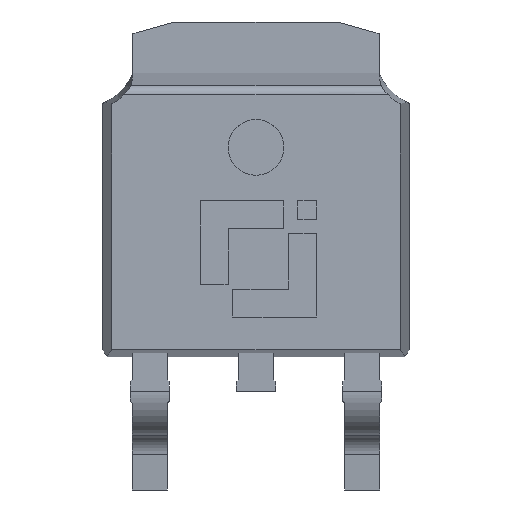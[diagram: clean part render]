
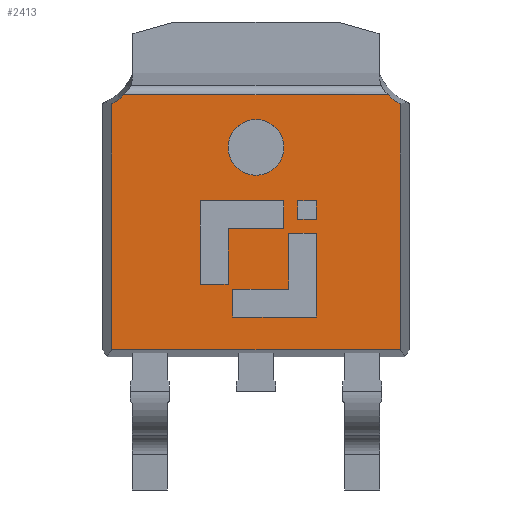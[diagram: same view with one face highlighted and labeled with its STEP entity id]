
A CAD part, top view. The second image highlights one B-rep face of the part: STEP entity #2413.
In plain terms, the highlighted planar face has unit normal (0, 0, 1).
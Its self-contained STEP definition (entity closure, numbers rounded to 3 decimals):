
#2211=CARTESIAN_POINT('',(0.,0.,2.29));
#2212=DIRECTION('',(0.,0.,1.));
#2213=DIRECTION('',(1.,0.,0.));
#2214=AXIS2_PLACEMENT_3D('',#2211,#2212,#2213);
#2215=PLANE('',#2214);
#2216=CARTESIAN_POINT('',(0.9,-0.1,2.29));
#2217=VERTEX_POINT('',#2216);
#2218=CARTESIAN_POINT('',(1.3,-0.1,2.29));
#2219=VERTEX_POINT('',#2218);
#2220=CARTESIAN_POINT('',(0.9,-0.1,2.29));
#2221=DIRECTION('',(1.,0.,0.));
#2222=VECTOR('',#2221,0.4);
#2223=LINE('',#2220,#2222);
#2224=EDGE_CURVE('',#2217,#2219,#2223,.T.);
#2225=ORIENTED_EDGE('',*,*,#2224,.F.);
#2226=CARTESIAN_POINT('',(0.9,0.3,2.29));
#2227=VERTEX_POINT('',#2226);
#2228=CARTESIAN_POINT('',(0.9,0.3,2.29));
#2229=DIRECTION('',(0.,-1.,0.));
#2230=VECTOR('',#2229,0.4);
#2231=LINE('',#2228,#2230);
#2232=EDGE_CURVE('',#2227,#2217,#2231,.T.);
#2233=ORIENTED_EDGE('',*,*,#2232,.F.);
#2234=CARTESIAN_POINT('',(1.3,0.3,2.29));
#2235=VERTEX_POINT('',#2234);
#2236=CARTESIAN_POINT('',(1.3,0.3,2.29));
#2237=DIRECTION('',(-1.,0.,0.));
#2238=VECTOR('',#2237,0.4);
#2239=LINE('',#2236,#2238);
#2240=EDGE_CURVE('',#2235,#2227,#2239,.T.);
#2241=ORIENTED_EDGE('',*,*,#2240,.F.);
#2242=CARTESIAN_POINT('',(1.3,-0.1,2.29));
#2243=DIRECTION('',(0.,1.,0.));
#2244=VECTOR('',#2243,0.4);
#2245=LINE('',#2242,#2244);
#2246=EDGE_CURVE('',#2219,#2235,#2245,.T.);
#2247=ORIENTED_EDGE('',*,*,#2246,.F.);
#2248=EDGE_LOOP('',(#2225,#2233,#2241,#2247));
#2249=FACE_BOUND('',#2248,.T.);
#2250=CARTESIAN_POINT('',(3.1,2.386,2.29));
#2251=VERTEX_POINT('',#2250);
#2252=CARTESIAN_POINT('',(2.845,2.581,2.29));
#2253=VERTEX_POINT('',#2252);
#2254=CARTESIAN_POINT('',(3.761,3.511,2.29));
#2255=DIRECTION('',(-0.,-0.,-1.));
#2256=DIRECTION('',(1.,0.,-0.));
#2257=AXIS2_PLACEMENT_3D('',#2254,#2255,#2256);
#2258=CIRCLE('',#2257,1.306);
#2259=EDGE_CURVE('',#2251,#2253,#2258,.T.);
#2260=ORIENTED_EDGE('',*,*,#2259,.T.);
#2261=CARTESIAN_POINT('',(-2.845,2.581,2.29));
#2262=VERTEX_POINT('',#2261);
#2263=CARTESIAN_POINT('',(2.845,2.581,2.29));
#2264=DIRECTION('',(-1.,-0.,-0.));
#2265=VECTOR('',#2264,5.691);
#2266=LINE('',#2263,#2265);
#2267=EDGE_CURVE('',#2253,#2262,#2266,.T.);
#2268=ORIENTED_EDGE('',*,*,#2267,.T.);
#2269=CARTESIAN_POINT('',(-3.1,2.386,2.29));
#2270=VERTEX_POINT('',#2269);
#2271=CARTESIAN_POINT('',(-3.761,3.511,2.29));
#2272=DIRECTION('',(-0.,-0.,-1.));
#2273=DIRECTION('',(1.,0.,-0.));
#2274=AXIS2_PLACEMENT_3D('',#2271,#2272,#2273);
#2275=CIRCLE('',#2274,1.306);
#2276=EDGE_CURVE('',#2262,#2270,#2275,.T.);
#2277=ORIENTED_EDGE('',*,*,#2276,.T.);
#2278=CARTESIAN_POINT('',(-3.1,-2.9,2.29));
#2279=VERTEX_POINT('',#2278);
#2280=CARTESIAN_POINT('',(-3.1,2.386,2.29));
#2281=DIRECTION('',(0.,-1.,0.));
#2282=VECTOR('',#2281,5.286);
#2283=LINE('',#2280,#2282);
#2284=EDGE_CURVE('',#2270,#2279,#2283,.T.);
#2285=ORIENTED_EDGE('',*,*,#2284,.T.);
#2286=CARTESIAN_POINT('',(3.1,-2.9,2.29));
#2287=VERTEX_POINT('',#2286);
#2288=CARTESIAN_POINT('',(-3.1,-2.9,2.29));
#2289=DIRECTION('',(1.,0.,0.));
#2290=VECTOR('',#2289,6.2);
#2291=LINE('',#2288,#2290);
#2292=EDGE_CURVE('',#2279,#2287,#2291,.T.);
#2293=ORIENTED_EDGE('',*,*,#2292,.T.);
#2294=CARTESIAN_POINT('',(3.1,-2.9,2.29));
#2295=DIRECTION('',(-0.,1.,0.));
#2296=VECTOR('',#2295,5.286);
#2297=LINE('',#2294,#2296);
#2298=EDGE_CURVE('',#2287,#2251,#2297,.T.);
#2299=ORIENTED_EDGE('',*,*,#2298,.T.);
#2300=EDGE_LOOP('',(#2260,#2268,#2277,#2285,#2293,#2299));
#2301=FACE_BOUND('',#2300,.T.);
#2302=CARTESIAN_POINT('',(0.6,1.45,2.29));
#2303=VERTEX_POINT('',#2302);
#2304=CARTESIAN_POINT('',(-0.,1.45,2.29));
#2305=DIRECTION('',(0.,0.,1.));
#2306=DIRECTION('',(1.,0.,-0.));
#2307=AXIS2_PLACEMENT_3D('',#2304,#2305,#2306);
#2308=CIRCLE('',#2307,0.6);
#2309=EDGE_CURVE('',#2303,#2303,#2308,.T.);
#2310=ORIENTED_EDGE('',*,*,#2309,.F.);
#2311=EDGE_LOOP('',(#2310));
#2312=FACE_BOUND('',#2311,.T.);
#2313=CARTESIAN_POINT('',(0.7,-0.4,2.29));
#2314=VERTEX_POINT('',#2313);
#2315=CARTESIAN_POINT('',(1.3,-0.4,2.29));
#2316=VERTEX_POINT('',#2315);
#2317=CARTESIAN_POINT('',(0.7,-0.4,2.29));
#2318=DIRECTION('',(1.,0.,0.));
#2319=VECTOR('',#2318,0.6);
#2320=LINE('',#2317,#2319);
#2321=EDGE_CURVE('',#2314,#2316,#2320,.T.);
#2322=ORIENTED_EDGE('',*,*,#2321,.T.);
#2323=CARTESIAN_POINT('',(1.3,-2.2,2.29));
#2324=VERTEX_POINT('',#2323);
#2325=CARTESIAN_POINT('',(1.3,-0.4,2.29));
#2326=DIRECTION('',(0.,-1.,0.));
#2327=VECTOR('',#2326,1.8);
#2328=LINE('',#2325,#2327);
#2329=EDGE_CURVE('',#2316,#2324,#2328,.T.);
#2330=ORIENTED_EDGE('',*,*,#2329,.T.);
#2331=CARTESIAN_POINT('',(-0.5,-2.2,2.29));
#2332=VERTEX_POINT('',#2331);
#2333=CARTESIAN_POINT('',(1.3,-2.2,2.29));
#2334=DIRECTION('',(-1.,0.,0.));
#2335=VECTOR('',#2334,1.8);
#2336=LINE('',#2333,#2335);
#2337=EDGE_CURVE('',#2324,#2332,#2336,.T.);
#2338=ORIENTED_EDGE('',*,*,#2337,.T.);
#2339=CARTESIAN_POINT('',(-0.5,-1.6,2.29));
#2340=VERTEX_POINT('',#2339);
#2341=CARTESIAN_POINT('',(-0.5,-2.2,2.29));
#2342=DIRECTION('',(0.,1.,0.));
#2343=VECTOR('',#2342,0.6);
#2344=LINE('',#2341,#2343);
#2345=EDGE_CURVE('',#2332,#2340,#2344,.T.);
#2346=ORIENTED_EDGE('',*,*,#2345,.T.);
#2347=CARTESIAN_POINT('',(0.7,-1.6,2.29));
#2348=VERTEX_POINT('',#2347);
#2349=CARTESIAN_POINT('',(-0.5,-1.6,2.29));
#2350=DIRECTION('',(1.,0.,-0.));
#2351=VECTOR('',#2350,1.2);
#2352=LINE('',#2349,#2351);
#2353=EDGE_CURVE('',#2340,#2348,#2352,.T.);
#2354=ORIENTED_EDGE('',*,*,#2353,.T.);
#2355=CARTESIAN_POINT('',(0.7,-1.6,2.29));
#2356=DIRECTION('',(0.,1.,0.));
#2357=VECTOR('',#2356,1.2);
#2358=LINE('',#2355,#2357);
#2359=EDGE_CURVE('',#2348,#2314,#2358,.T.);
#2360=ORIENTED_EDGE('',*,*,#2359,.T.);
#2361=EDGE_LOOP('',(#2322,#2330,#2338,#2346,#2354,#2360));
#2362=FACE_BOUND('',#2361,.T.);
#2363=CARTESIAN_POINT('',(-1.2,0.3,2.29));
#2364=VERTEX_POINT('',#2363);
#2365=CARTESIAN_POINT('',(0.6,0.3,2.29));
#2366=VERTEX_POINT('',#2365);
#2367=CARTESIAN_POINT('',(-1.2,0.3,2.29));
#2368=DIRECTION('',(1.,0.,-0.));
#2369=VECTOR('',#2368,1.8);
#2370=LINE('',#2367,#2369);
#2371=EDGE_CURVE('',#2364,#2366,#2370,.T.);
#2372=ORIENTED_EDGE('',*,*,#2371,.T.);
#2373=CARTESIAN_POINT('',(0.6,-0.3,2.29));
#2374=VERTEX_POINT('',#2373);
#2375=CARTESIAN_POINT('',(0.6,0.3,2.29));
#2376=DIRECTION('',(0.,-1.,0.));
#2377=VECTOR('',#2376,0.6);
#2378=LINE('',#2375,#2377);
#2379=EDGE_CURVE('',#2366,#2374,#2378,.T.);
#2380=ORIENTED_EDGE('',*,*,#2379,.T.);
#2381=CARTESIAN_POINT('',(-0.6,-0.3,2.29));
#2382=VERTEX_POINT('',#2381);
#2383=CARTESIAN_POINT('',(0.6,-0.3,2.29));
#2384=DIRECTION('',(-1.,0.,0.));
#2385=VECTOR('',#2384,1.2);
#2386=LINE('',#2383,#2385);
#2387=EDGE_CURVE('',#2374,#2382,#2386,.T.);
#2388=ORIENTED_EDGE('',*,*,#2387,.T.);
#2389=CARTESIAN_POINT('',(-0.6,-1.5,2.29));
#2390=VERTEX_POINT('',#2389);
#2391=CARTESIAN_POINT('',(-0.6,-0.3,2.29));
#2392=DIRECTION('',(0.,-1.,0.));
#2393=VECTOR('',#2392,1.2);
#2394=LINE('',#2391,#2393);
#2395=EDGE_CURVE('',#2382,#2390,#2394,.T.);
#2396=ORIENTED_EDGE('',*,*,#2395,.T.);
#2397=CARTESIAN_POINT('',(-1.2,-1.5,2.29));
#2398=VERTEX_POINT('',#2397);
#2399=CARTESIAN_POINT('',(-0.6,-1.5,2.29));
#2400=DIRECTION('',(-1.,0.,0.));
#2401=VECTOR('',#2400,0.6);
#2402=LINE('',#2399,#2401);
#2403=EDGE_CURVE('',#2390,#2398,#2402,.T.);
#2404=ORIENTED_EDGE('',*,*,#2403,.T.);
#2405=CARTESIAN_POINT('',(-1.2,-1.5,2.29));
#2406=DIRECTION('',(0.,1.,0.));
#2407=VECTOR('',#2406,1.8);
#2408=LINE('',#2405,#2407);
#2409=EDGE_CURVE('',#2398,#2364,#2408,.T.);
#2410=ORIENTED_EDGE('',*,*,#2409,.T.);
#2411=EDGE_LOOP('',(#2372,#2380,#2388,#2396,#2404,#2410));
#2412=FACE_BOUND('',#2411,.T.);
#2413=ADVANCED_FACE('',(#2249,#2301,#2312,#2362,#2412),#2215,.T.);
